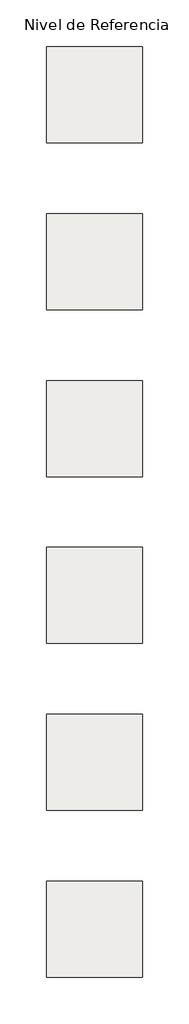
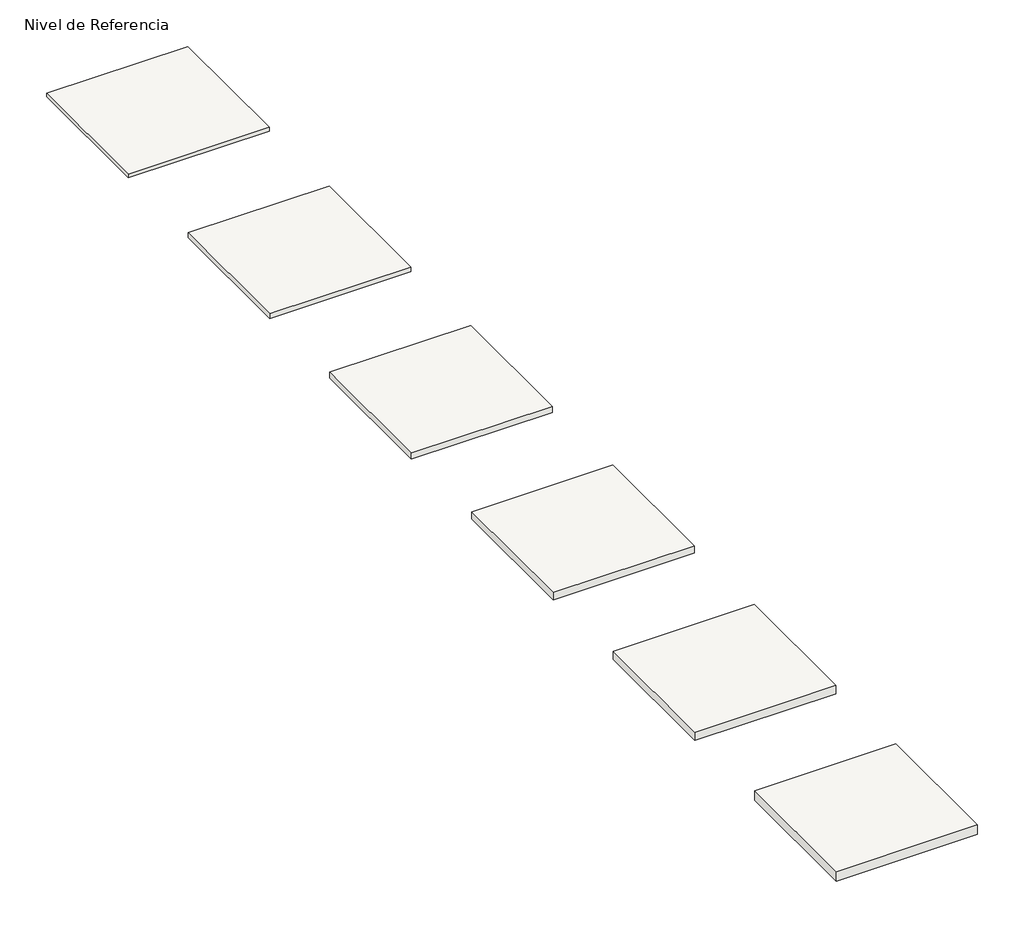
# One storey: 6 roofs.
"""IFC4 building model written with IfcOpenShell, lengths in millimetres."""

from ifc_helpers import new_model, si_unit, origin, origin_with_axes, place, context, project, spatial, polyline, outline, extrude, element, save

model = new_model("IFC4")

# Units and contexts
model_context = context("Model", 3, world=origin())
ifc_project = project(units=[si_unit("LENGTHUNIT", "METRE", prefix="MILLI")], contexts=[model_context])

# Site, building, storey
site = spatial("IfcSite", under=ifc_project)
building = spatial("IfcBuilding", under=site)
storey = spatial("IfcBuildingStorey", under=building, Name="Nivel de Referencia", Elevation=0.0)

# Roofs
placement = place(None, origin())
element("IfcRoof", 1, ObjectType="Pasillo técnico con Lámina Sintética y fieltro Rocksourdine - Megarock 60 mm", at=placement, inside=storey, context=model_context, shape_type="SweptSolid", body=[
    extrude(outline(polyline([(-825.097678, 1247.4528719), (1474.902322, 1247.4528719), (1474.902322, -1052.5471281), (-825.097678, -1052.5471281), (-825.097678, 1247.4528719)])), origin_with_axes(), (0.0, 0.0, 1.0), 63.2),
])
element("IfcRoof", 2, ObjectType="Pasillo técnico con Lámina Sintética y fieltro Rocksourdine - Megarock 80 mm", at=placement, inside=storey, context=model_context, shape_type="SweptSolid", body=[
    extrude(outline(polyline([(-825.097678, -2752.5471281), (1474.902322, -2752.5471281), (1474.902322, -5052.5471281), (-825.097678, -5052.5471281), (-825.097678, -2752.5471281)])), origin_with_axes(), (0.0, 0.0, 1.0), 83.2),
])
element("IfcRoof", 3, ObjectType="Pasillo técnico con Lámina Sintética y fieltro Rocksourdine - Megarock 100 mm", at=placement, inside=storey, context=model_context, shape_type="SweptSolid", body=[
    extrude(outline(polyline([(-825.097678, -6752.5471281), (1474.902322, -6752.5471281), (1474.902322, -9052.5471281), (-825.097678, -9052.5471281), (-825.097678, -6752.5471281)])), origin_with_axes(), (0.0, 0.0, 1.0), 103.2),
])
element("IfcRoof", 4, ObjectType="Pasillo técnico con Lámina Sintética y fieltro Rocksourdine - Megarock 120 mm", at=placement, inside=storey, context=model_context, shape_type="SweptSolid", body=[
    extrude(outline(polyline([(-825.097678, -10752.5471281), (1474.902322, -10752.5471281), (1474.902322, -13052.5471281), (-825.097678, -13052.5471281), (-825.097678, -10752.5471281)])), origin_with_axes(), (0.0, 0.0, 1.0), 123.2),
])
element("IfcRoof", 5, ObjectType="Pasillo técnico con Lámina Sintética y fieltro Rocksourdine - Megarock 140 mm", at=placement, inside=storey, context=model_context, shape_type="SweptSolid", body=[
    extrude(outline(polyline([(-825.097678, -14752.5471281), (1474.902322, -14752.5471281), (1474.902322, -17052.5471281), (-825.097678, -17052.5471281), (-825.097678, -14752.5471281)])), origin_with_axes(), (0.0, 0.0, 1.0), 143.2),
])
element("IfcRoof", 6, ObjectType="Pasillo técnico con Lámina Sintética y fieltro Rocksourdine - Megarock 160 mm", at=placement, inside=storey, context=model_context, shape_type="SweptSolid", body=[
    extrude(outline(polyline([(-825.097678, -18752.5471281), (1474.902322, -18752.5471281), (1474.902322, -21052.5471281), (-825.097678, -21052.5471281), (-825.097678, -18752.5471281)])), origin_with_axes(), (0.0, 0.0, 1.0), 163.2),
])

save(model, "model.ifc")
